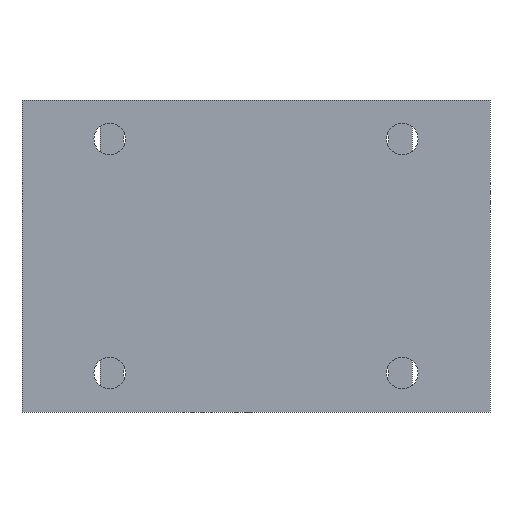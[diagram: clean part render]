
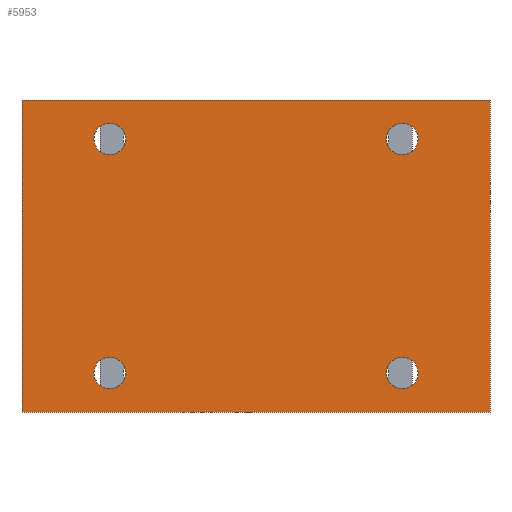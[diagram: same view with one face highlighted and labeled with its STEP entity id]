
A CAD part, front view. The second image highlights one B-rep face of the part: STEP entity #5953.
In plain terms, the highlighted planar face has unit normal (0, -1, 0).
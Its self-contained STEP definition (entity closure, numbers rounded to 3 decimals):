
#394=FACE_BOUND('',#964,.T.);
#395=FACE_BOUND('',#965,.T.);
#396=FACE_BOUND('',#966,.T.);
#397=FACE_BOUND('',#967,.T.);
#461=PLANE('',#6400);
#600=FACE_OUTER_BOUND('',#963,.T.);
#963=EDGE_LOOP('',(#4097,#4098,#4099,#4100));
#964=EDGE_LOOP('',(#4101));
#965=EDGE_LOOP('',(#4102));
#966=EDGE_LOOP('',(#4103));
#967=EDGE_LOOP('',(#4104));
#1381=LINE('',#8520,#1836);
#1385=LINE('',#8528,#1840);
#1388=LINE('',#8534,#1843);
#1391=LINE('',#8539,#1846);
#1836=VECTOR('',#7042,10.);
#1840=VECTOR('',#7048,10.);
#1843=VECTOR('',#7053,10.);
#1846=VECTOR('',#7058,10.);
#2252=CIRCLE('',#6385,10.3);
#2254=CIRCLE('',#6388,10.3);
#2256=CIRCLE('',#6391,10.3);
#2258=CIRCLE('',#6394,10.3);
#2441=VERTEX_POINT('',#8496);
#2443=VERTEX_POINT('',#8502);
#2445=VERTEX_POINT('',#8508);
#2447=VERTEX_POINT('',#8514);
#2448=VERTEX_POINT('',#8518);
#2449=VERTEX_POINT('',#8519);
#2452=VERTEX_POINT('',#8527);
#2454=VERTEX_POINT('',#8533);
#3067=EDGE_CURVE('',#2441,#2441,#2252,.T.);
#3070=EDGE_CURVE('',#2443,#2443,#2254,.T.);
#3073=EDGE_CURVE('',#2445,#2445,#2256,.T.);
#3076=EDGE_CURVE('',#2447,#2447,#2258,.T.);
#3077=EDGE_CURVE('',#2448,#2449,#1381,.T.);
#3081=EDGE_CURVE('',#2449,#2452,#1385,.T.);
#3084=EDGE_CURVE('',#2452,#2454,#1388,.T.);
#3087=EDGE_CURVE('',#2454,#2448,#1391,.T.);
#4097=ORIENTED_EDGE('',*,*,#3087,.T.);
#4098=ORIENTED_EDGE('',*,*,#3077,.T.);
#4099=ORIENTED_EDGE('',*,*,#3081,.T.);
#4100=ORIENTED_EDGE('',*,*,#3084,.T.);
#4101=ORIENTED_EDGE('',*,*,#3076,.F.);
#4102=ORIENTED_EDGE('',*,*,#3073,.F.);
#4103=ORIENTED_EDGE('',*,*,#3070,.F.);
#4104=ORIENTED_EDGE('',*,*,#3067,.F.);
#5953=ADVANCED_FACE('',(#600,#394,#395,#396,#397),#461,.F.);
#6385=AXIS2_PLACEMENT_3D('',#8498,#7017,#7018);
#6388=AXIS2_PLACEMENT_3D('',#8504,#7024,#7025);
#6391=AXIS2_PLACEMENT_3D('',#8510,#7031,#7032);
#6394=AXIS2_PLACEMENT_3D('',#8516,#7038,#7039);
#6400=AXIS2_PLACEMENT_3D('',#8542,#7062,#7063);
#7017=DIRECTION('center_axis',(0.,-1.,0.));
#7018=DIRECTION('ref_axis',(1.,0.,0.));
#7024=DIRECTION('center_axis',(0.,-1.,0.));
#7025=DIRECTION('ref_axis',(1.,0.,0.));
#7031=DIRECTION('center_axis',(0.,-1.,0.));
#7032=DIRECTION('ref_axis',(1.,0.,0.));
#7038=DIRECTION('center_axis',(0.,-1.,0.));
#7039=DIRECTION('ref_axis',(1.,0.,0.));
#7042=DIRECTION('',(0.,0.,1.));
#7048=DIRECTION('',(-1.,0.,0.));
#7053=DIRECTION('',(0.,0.,-1.));
#7058=DIRECTION('',(1.,0.,0.));
#7062=DIRECTION('center_axis',(0.,1.,0.));
#7063=DIRECTION('ref_axis',(1.,0.,0.));
#8496=CARTESIAN_POINT('',(-105.55,0.,-76.2));
#8498=CARTESIAN_POINT('Origin',(-95.25,0.,-76.2));
#8502=CARTESIAN_POINT('',(-105.55,0.,76.2));
#8504=CARTESIAN_POINT('Origin',(-95.25,0.,76.2));
#8508=CARTESIAN_POINT('',(84.95,0.,-76.2));
#8510=CARTESIAN_POINT('Origin',(95.25,0.,-76.2));
#8514=CARTESIAN_POINT('',(84.95,0.,76.2));
#8516=CARTESIAN_POINT('Origin',(95.25,0.,76.2));
#8518=CARTESIAN_POINT('',(152.4,0.,-101.6));
#8519=CARTESIAN_POINT('',(152.4,0.,101.6));
#8520=CARTESIAN_POINT('',(152.4,0.,-101.6));
#8527=CARTESIAN_POINT('',(-152.4,0.,101.6));
#8528=CARTESIAN_POINT('',(152.4,0.,101.6));
#8533=CARTESIAN_POINT('',(-152.4,0.,-101.6));
#8534=CARTESIAN_POINT('',(-152.4,0.,101.6));
#8539=CARTESIAN_POINT('',(-152.4,0.,-101.6));
#8542=CARTESIAN_POINT('Origin',(0.,0.,0.));
